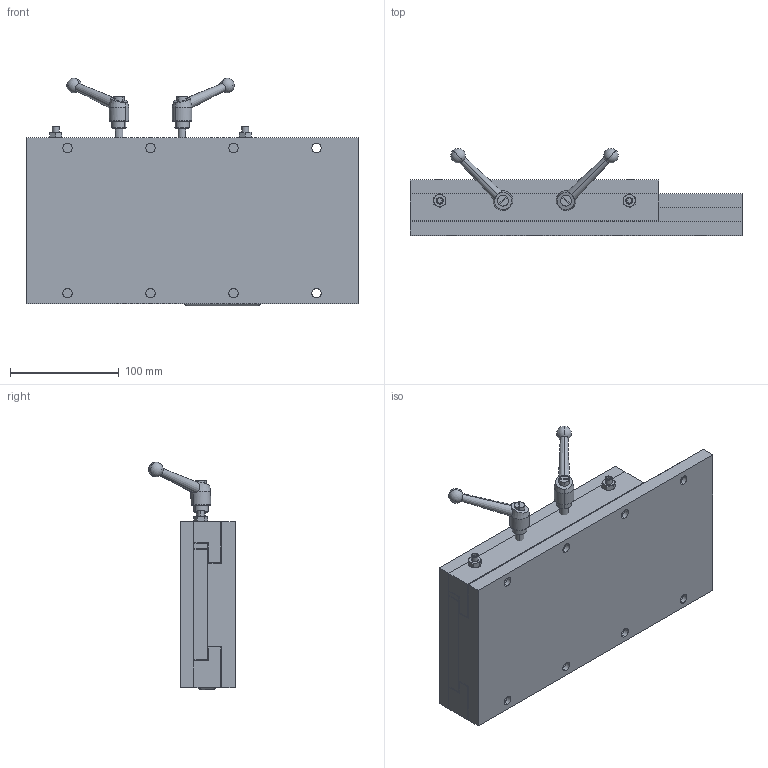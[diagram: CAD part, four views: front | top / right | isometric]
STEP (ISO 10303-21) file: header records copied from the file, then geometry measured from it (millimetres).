
FILE_DESCRIPTION (( 'STEP AP214' ), '1' );
FILE_NAME ('SW06-SL09-BL12-LH.STEP', '2011-06-16T19:30:38', ( '' ), ( '' ), 'SwSTEP 2.0', 'SolidWorks 2011', '' );
FILE_SCHEMA (( 'AUTOMOTIVE_DESIGN' ));
Length unit declared in the file: inch
Products named in the file (13): KHB_62; _MSHXNUT_MSHXNUT 0.250-28-D-N; _SSCUPSOC_SSCUPSKT 0.25-28x1.25-HX-N; Tag; Gen2 Bar_06x09 BAR; Gen2 Adj Gib_06x09 ADJ GIB; Gen2 Gib_06x09 GIB; Gen2 Top plate_06x09 TPLATE; Gen2 BASE_06x12 BASE; Gen2 Hardplate_06x12 HPLATE; Gen2 Baseplate_06x12 BASE; SW06-SL09-BL12-LH; Gen2 SADDLE_06x09 SADDLE with LOCK HANDLES
Assembly tree (15 placements, depth 3):
  SW06-SL09-BL12-LH
    Gen2 SADDLE_06x09 SADDLE with LOCK HANDLES
      _MSHXNUT_MSHXNUT 0.250-28-D-N  x2
      Gen2 Gib_06x09 GIB
      _SSCUPSOC_SSCUPSKT 0.25-28x1.25-HX-N  x2
      Gen2 Top plate_06x09 TPLATE
      Gen2 Bar_06x09 BAR
      Gen2 Adj Gib_06x09 ADJ GIB
      KHB_62  x2
      Tag
    Gen2 BASE_06x12 BASE
      Gen2 Hardplate_06x12 HPLATE
      Gen2 Baseplate_06x12 BASE
Bounding box: 304.8 x 79.66 x 208.89 mm (x, y, z)
Volume: 2083585.1 mm3; surface area: 426577.9 mm2
Topology: 18 solids, 18 shells, 306 faces, 692 edges, 430 vertices
Faces by surface type: plane 142, cylinder 88, cone 68, sphere 4, bspline 4
Entity records: 8212 total; most frequent: CARTESIAN_POINT 2096, DIRECTION 1137, ORIENTED_EDGE 1030, EDGE_CURVE 515, AXIS2_PLACEMENT_3D 419, VERTEX_POINT 330, LINE 299, VECTOR 299
